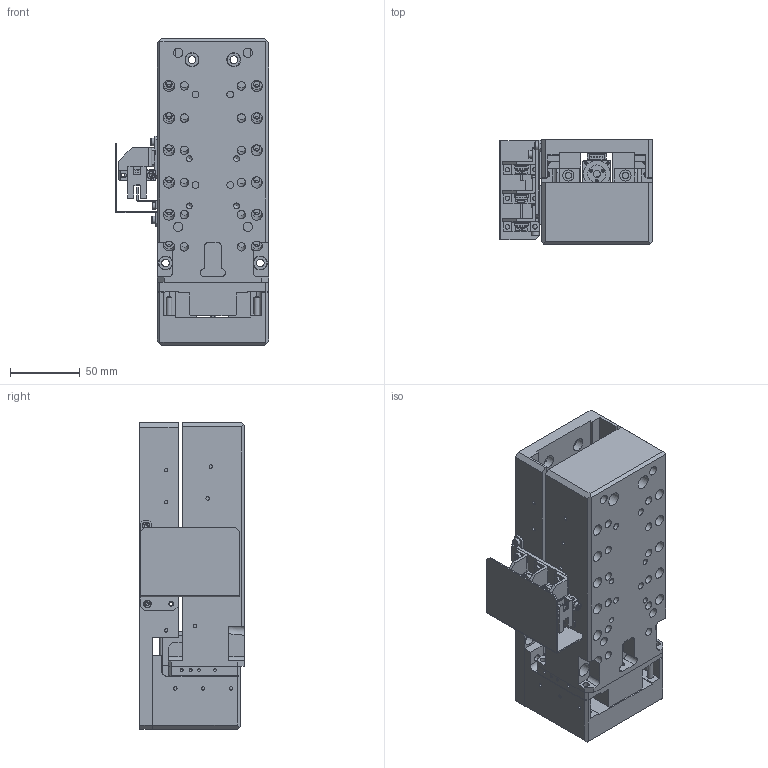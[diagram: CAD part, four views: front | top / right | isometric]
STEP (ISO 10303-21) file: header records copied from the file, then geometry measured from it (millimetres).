
FILE_DESCRIPTION(/* description */ ('Unknown'),/* implementation_level */ '2;1');
FILE_NAME(/* name */ 'DLB3-N00L(ヒーハイスト殿送付)',/* time_stamp */ '2024-06-14T13:15:01+09:00',/* author */ ('Unknown'),/* organization */ ('Unknown'),/* preprocessor_version */ 'ST-DEVELOPER v18.102',/* originating_system */ 'Solid Edge',/* authorisation */ 'Unknown');
FILE_SCHEMA (('AUTOMOTIVE_DESIGN {1 0 10303 214 3 1 1}'));
Length unit declared in the file: millimetre
Products named in the file (18): DLB3-N00L(ヒーハイスト殿送付); モーター; CRK513PBP-H50; FIT-283-003-NK テーブル_mir; Hex_socket_head_cap_screw_JIS_B_1176_M2.5x5_v9.00; FIT-283-018-N センサレール; Hex_socket_head_cap_screw_JIS_B_1176_M3x10_v9.00; Hex_socket_head_cap_screw_JIS_B_1176_M3x5_v9.00; PM-K64; FIT-283-020-N センサブラケットB; Hex_socket_head_cap_screw_JIS_B_1176_M3x6_v9.00; FIT-283-022-N ドグB; FIT-283-024-N カバーB; Nリア連結ガイド変更; FIT-283-004-NK スライドテーブル　リア; FIT-283-005-N レールベース　リア_
mir; FIT-283-001-NK ベース_mir; Hex_socket_head_cap_screw_JIS_B_1176_M4x30_v9.00
Assembly tree (29 placements, depth 3):
  DLB3-N00L(ヒーハイスト殿送付)
    モーター
      CRK513PBP-H50
    FIT-283-003-NK テーブル_mir
    Hex_socket_head_cap_screw_JIS_B_1176_M2.5x5_v9.00
    FIT-283-018-N センサレール
    Hex_socket_head_cap_screw_JIS_B_1176_M3x10_v9.00  x3
    Hex_socket_head_cap_screw_JIS_B_1176_M3x5_v9.00  x2
    PM-K64  x3
    FIT-283-020-N センサブラケットB  x3
    Hex_socket_head_cap_screw_JIS_B_1176_M3x6_v9.00
    FIT-283-022-N ドグB
    FIT-283-024-N カバーB
    Nリア連結ガイド変更
      FIT-283-004-NK スライドテーブル　リア
      FIT-283-005-N レールベース　リア_
mir
    FIT-283-001-NK ベース_mir
    Hex_socket_head_cap_screw_JIS_B_1176_M4x30_v9.00  x6
Bounding box: 110 x 75 x 220.02 mm (x, y, z)
Volume: 636903.8 mm3; surface area: 209295.5 mm2
Topology: 28 solids, 28 shells, 1690 faces, 4188 edges, 2691 vertices
Faces by surface type: plane 1052, cylinder 448, cone 151, torus 39
Full cylindrical faces by diameter (mm): 0.5 x5, 1 x6, 1.567 x7, 2.11 x22, 2.459 x39, 2.46 x26, 2.5 x2, 3 x14, 3.2 x16, 3.242 x5, 3.5 x8, 4 x19, 4.13 x8, 4.134 x16, 4.5 x32, 4.917 x18, 5 x1, 5.5 x10, 6 x16, 6.5 x6, 6.647 x6, 7 x6, 8 x26, 9.5 x4, 10 x4, 12 x6, 13 x1, 19.5 x1
Entity records: 37544 total; most frequent: DIRECTION 5311, CARTESIAN_POINT 5240, ORIENTED_EDGE 4564, EDGE_CURVE 2282, AXIS2_PLACEMENT_3D 1942, FACE_BOUND 1795, EDGE_LOOP 1763, VERTEX_POINT 1697
